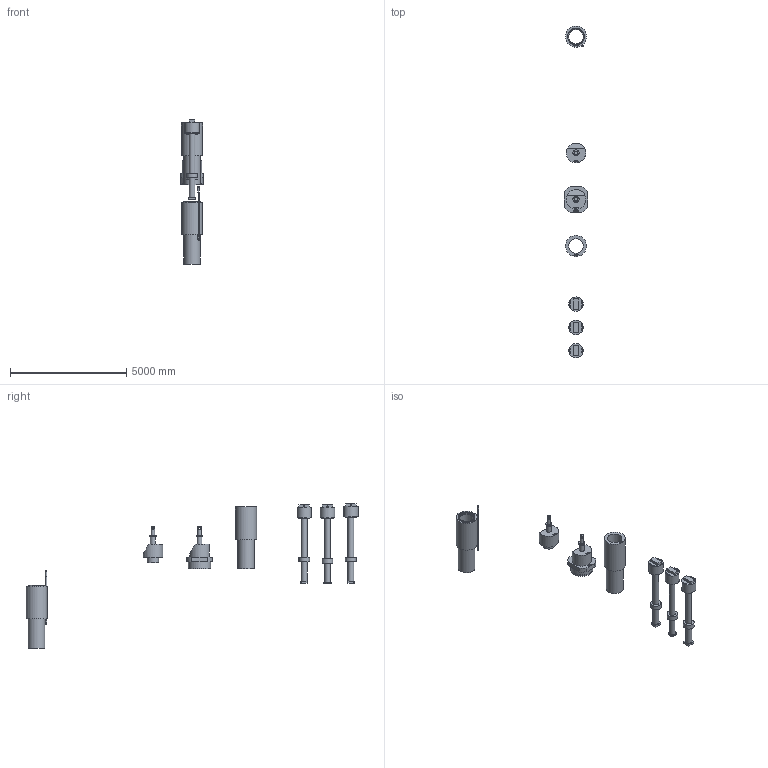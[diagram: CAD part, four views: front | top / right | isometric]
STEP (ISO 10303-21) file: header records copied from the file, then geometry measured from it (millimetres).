
FILE_DESCRIPTION(/* description */ (''),/* implementation_level */ '2;1');
FILE_NAME(/* name */ 'PTAA003927-B_DISMANTLING DIMENSIONS - CONCEPT.stp',/* time_stamp */ '2023-04-21T18:07:57+06:00',/* author */ (''),/* organization */ (''),/* preprocessor_version */ 'ST-DEVELOPER v16.7',/* originating_system */ 'SIEMENS PLM Software NX 12.0',/* authorisation */ '');
FILE_SCHEMA (('AUTOMOTIVE_DESIGN { 1 0 10303 214 3 1 1 1 }'));
Length unit declared in the file: millimetre
Products named in the file (6): PTAA060356--_9421-01_SP_0_LinerLiftingTool_Outline_X62-S; PTAA015013--_2xxx_SP_0_OutlineCombustionParts_X62DF-1.0_VALVE_CAGE; PTAA015013--_2xxx_SP_0_OutlineCombustionParts_X62DF-1.0_LINER; PTAA048165--_0816_DP_0_34xxPistonAssy_X62DF-S2.0_VCR; PTAA015013--_2xxx_SP_0_OutlineCombustionParts_X62DF-1.0_CYL COVER COM
PLETE+WGJ; PTAA003927-B_DISMANTLING DIMENSIONS - CONCEPT
Assembly tree (6 placements, depth 3):
  PTAA003927-B_DISMANTLING DIMENSIONS - CONCEPT
    PTAA048165--_0816_DP_0_34xxPistonAssy_X62DF-S2.0_VCR
    PTAA015013--_2xxx_SP_0_OutlineCombustionParts_X62DF-1.0_LINER
    PTAA015013--_2xxx_SP_0_OutlineCombustionParts_X62DF-1.0_CYL COVER COM
PLETE+WGJ
      PTAA060356--_9421-01_SP_0_LinerLiftingTool_Outline_X62-S
    PTAA015013--_2xxx_SP_0_OutlineCombustionParts_X62DF-1.0_VALVE_CAGE
    PTAA060356--_9421-01_SP_0_LinerLiftingTool_Outline_X62-S
Bounding box: 994 x 14263 x 6192 mm (x, y, z)
Volume: 3123662635.1 mm3; surface area: 54666671.4 mm2
Topology: 17 solids, 17 shells, 1122 faces, 2741 edges, 1816 vertices
Faces by surface type: plane 720, extrusion 295, cylinder 77, cone 25, torus 3, bspline 2
Full cylindrical faces by diameter (mm): 8.5 x6, 14 x1, 45 x3, 50 x3, 54 x1, 56 x1, 64 x2, 80 x8, 144 x2, 210 x2, 250 x6, 264 x2, 336 x1, 456 x3, 480 x3, 494 x3, 620 x7, 650 x1, 720 x2, 840 x2, 906 x4, 956 x1
Entity records: 43225 total; most frequent: CARTESIAN_POINT 17875, ORIENTED_EDGE 4906, DIRECTION 2963, EDGE_CURVE 2453, B_SPLINE_CURVE_WITH_KNOTS 1734, VERTEX_POINT 1682, EDGE_LOOP 1309, VECTOR 1111
